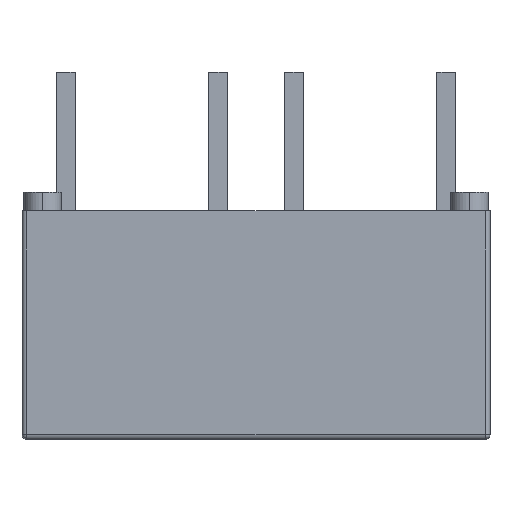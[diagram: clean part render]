
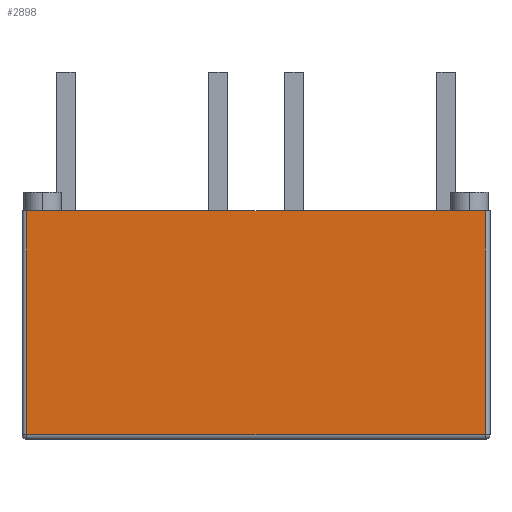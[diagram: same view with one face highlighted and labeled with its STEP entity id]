
A CAD part, top view. The second image highlights one B-rep face of the part: STEP entity #2898.
In plain terms, the highlighted planar face has unit normal (0, 0, 1).
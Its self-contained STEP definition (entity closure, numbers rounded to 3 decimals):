
#169 = CARTESIAN_POINT ( 'NONE',  ( -6.25, 3.05, 1.85 ) ) ;
#184 = PLANE ( 'NONE',  #4514 ) ;
#266 = CARTESIAN_POINT ( 'NONE',  ( -6.25, -2.923, 1.85 ) ) ;
#478 = CARTESIAN_POINT ( 'NONE',  ( 6.123, -2.923, 1.85 ) ) ;
#1668 = VECTOR ( 'NONE', #8565, 1000. ) ;
#1786 = CARTESIAN_POINT ( 'NONE',  ( -6.123, 3.05, 1.85 ) ) ;
#2744 = VECTOR ( 'NONE', #7187, 1000. ) ;
#2774 = CARTESIAN_POINT ( 'NONE',  ( -6.123, -2.923, 1.85 ) ) ;
#2852 = DIRECTION ( 'NONE',  ( -1., 0., 0. ) ) ;
#2898 = ADVANCED_FACE ( 'NONE', ( #9123 ), #184, .F. ) ;
#4057 = EDGE_LOOP ( 'NONE', ( #4195, #10868, #5864, #9895 ) ) ;
#4195 = ORIENTED_EDGE ( 'NONE', *, *, #12903, .F. ) ;
#4369 = DIRECTION ( 'NONE',  ( 0., -1., 0. ) ) ;
#4514 = AXIS2_PLACEMENT_3D ( 'NONE', #11223, #9188, #2852 ) ;
#4910 = VERTEX_POINT ( 'NONE', #11283 ) ;
#5495 = VERTEX_POINT ( 'NONE', #1786 ) ;
#5772 = VECTOR ( 'NONE', #10517, 1000. ) ;
#5864 = ORIENTED_EDGE ( 'NONE', *, *, #13384, .T. ) ;
#5951 = LINE ( 'NONE', #9369, #2744 ) ;
#6454 = VECTOR ( 'NONE', #4369, 1000. ) ;
#7187 = DIRECTION ( 'NONE',  ( 0., 1., 0. ) ) ;
#7579 = CARTESIAN_POINT ( 'NONE',  ( -6.123, 3.05, 1.85 ) ) ;
#7727 = EDGE_CURVE ( 'NONE', #9594, #4910, #5951, .T. ) ;
#7838 = LINE ( 'NONE', #266, #1668 ) ;
#8087 = EDGE_CURVE ( 'NONE', #5495, #12395, #8394, .T. ) ;
#8394 = LINE ( 'NONE', #7579, #6454 ) ;
#8565 = DIRECTION ( 'NONE',  ( 1., 0., 0. ) ) ;
#9123 = FACE_OUTER_BOUND ( 'NONE', #4057, .T. ) ;
#9188 = DIRECTION ( 'NONE',  ( 0., 0., -1. ) ) ;
#9369 = CARTESIAN_POINT ( 'NONE',  ( 6.123, 3.05, 1.85 ) ) ;
#9565 = LINE ( 'NONE', #169, #5772 ) ;
#9594 = VERTEX_POINT ( 'NONE', #478 ) ;
#9895 = ORIENTED_EDGE ( 'NONE', *, *, #7727, .T. ) ;
#10517 = DIRECTION ( 'NONE',  ( 1., 0., 0. ) ) ;
#10868 = ORIENTED_EDGE ( 'NONE', *, *, #8087, .T. ) ;
#11223 = CARTESIAN_POINT ( 'NONE',  ( -6.25, 3.05, 1.85 ) ) ;
#11283 = CARTESIAN_POINT ( 'NONE',  ( 6.123, 3.05, 1.85 ) ) ;
#12395 = VERTEX_POINT ( 'NONE', #2774 ) ;
#12903 = EDGE_CURVE ( 'NONE', #5495, #4910, #9565, .T. ) ;
#13384 = EDGE_CURVE ( 'NONE', #12395, #9594, #7838, .T. ) ;
